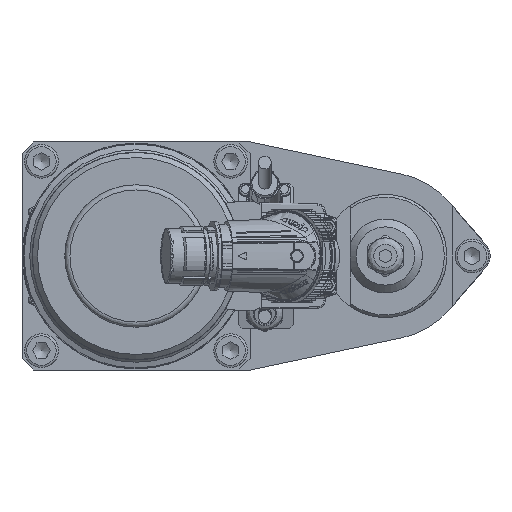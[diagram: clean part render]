
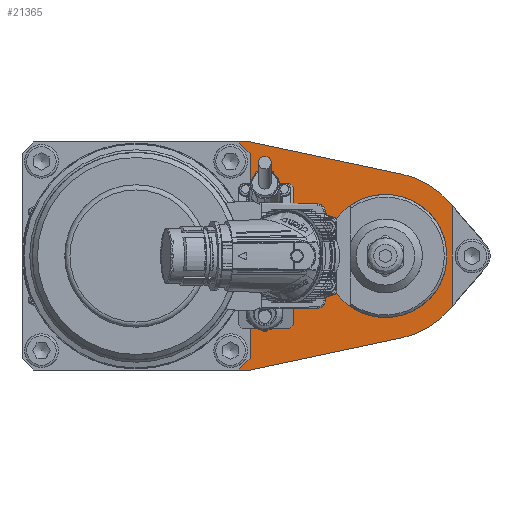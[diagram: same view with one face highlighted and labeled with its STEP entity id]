
A CAD part, left-side view. The second image highlights one B-rep face of the part: STEP entity #21365.
In plain terms, the highlighted planar face has unit normal (-1, 0, 0).
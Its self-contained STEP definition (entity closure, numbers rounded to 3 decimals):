
#387 = EDGE_CURVE ( 'NONE', #109382, #36661, #92093, .T. ) ;
#788 = LINE ( 'NONE', #8972, #1476 ) ;
#1031 = DIRECTION ( 'NONE',  ( 0., 0., 1. ) ) ;
#1476 = VECTOR ( 'NONE', #70362, 1000. ) ;
#2410 = FACE_BOUND ( 'NONE', #18944, .T. ) ;
#2539 = VERTEX_POINT ( 'NONE', #65524 ) ;
#3614 = FACE_OUTER_BOUND ( 'NONE', #56711, .T. ) ;
#3762 = VECTOR ( 'NONE', #28948, 1000. ) ;
#3872 = LINE ( 'NONE', #20195, #3762 ) ;
#6604 = EDGE_CURVE ( 'NONE', #48853, #90483, #105115, .T. ) ;
#6956 = CARTESIAN_POINT ( 'NONE',  ( -132., -24.302, 21.125 ) ) ;
#7243 = ORIENTED_EDGE ( 'NONE', *, *, #63338, .F. ) ;
#7562 = DIRECTION ( 'NONE',  ( 1., 0., 0. ) ) ;
#8972 = CARTESIAN_POINT ( 'NONE',  ( -132., -24.302, -21.125 ) ) ;
#9948 = VECTOR ( 'NONE', #86880, 1000. ) ;
#10277 = LINE ( 'NONE', #89573, #9948 ) ;
#10827 = ORIENTED_EDGE ( 'NONE', *, *, #91955, .F. ) ;
#10992 = CARTESIAN_POINT ( 'NONE',  ( -132., 19., 14.25 ) ) ;
#11321 = CARTESIAN_POINT ( 'NONE',  ( -132., 52.13, 44. ) ) ;
#12450 = EDGE_CURVE ( 'NONE', #90483, #109382, #14640, .T. ) ;
#12649 = ORIENTED_EDGE ( 'NONE', *, *, #36013, .F. ) ;
#14430 = VECTOR ( 'NONE', #44032, 1000. ) ;
#14640 = LINE ( 'NONE', #43282, #14430 ) ;
#14662 = CARTESIAN_POINT ( 'NONE',  ( -132., 56.713, 44. ) ) ;
#16172 = VECTOR ( 'NONE', #112332, 1000. ) ;
#16362 = DIRECTION ( 'NONE',  ( 0., 0., 1. ) ) ;
#17221 = DIRECTION ( 'NONE',  ( 0., 0., -1. ) ) ;
#18704 = CARTESIAN_POINT ( 'NONE',  ( -132., 56.713, -44. ) ) ;
#18944 = EDGE_LOOP ( 'NONE', ( #26297, #29300 ) ) ;
#19126 = VERTEX_POINT ( 'NONE', #66825 ) ;
#19936 = DIRECTION ( 'NONE',  ( 0., -0.707, -0.707 ) ) ;
#20195 = CARTESIAN_POINT ( 'NONE',  ( -132., 52.13, -44. ) ) ;
#20456 = AXIS2_PLACEMENT_3D ( 'NONE', #35530, #97473, #44284 ) ;
#21365 = ADVANCED_FACE ( 'NONE', ( #3614, #2410 ), #68570, .T. ) ;
#22307 = DIRECTION ( 'NONE',  ( -1., 0., 0. ) ) ;
#23043 = ORIENTED_EDGE ( 'NONE', *, *, #6604, .T. ) ;
#23073 = CARTESIAN_POINT ( 'NONE',  ( -132., 49.911, 0. ) ) ;
#24716 = VERTEX_POINT ( 'NONE', #90935 ) ;
#26297 = ORIENTED_EDGE ( 'NONE', *, *, #48983, .F. ) ;
#26474 = VERTEX_POINT ( 'NONE', #66926 ) ;
#28500 = CARTESIAN_POINT ( 'NONE',  ( -132., 140.213, -44. ) ) ;
#28948 = DIRECTION ( 'NONE',  ( 0., 0.978, -0.208 ) ) ;
#29300 = ORIENTED_EDGE ( 'NONE', *, *, #85053, .F. ) ;
#34404 = AXIS2_PLACEMENT_3D ( 'NONE', #23073, #22307, #1031 ) ;
#35530 = CARTESIAN_POINT ( 'NONE',  ( -132., 0., 0. ) ) ;
#35618 = ORIENTED_EDGE ( 'NONE', *, *, #93218, .F. ) ;
#35621 = AXIS2_PLACEMENT_3D ( 'NONE', #40984, #102933, #49912 ) ;
#36013 = EDGE_CURVE ( 'NONE', #45242, #82511, #85549, .T. ) ;
#36661 = VERTEX_POINT ( 'NONE', #18704 ) ;
#37012 = EDGE_CURVE ( 'NONE', #82511, #93504, #71786, .T. ) ;
#37183 = CIRCLE ( 'NONE', #35621, 23.75 ) ;
#37261 = CARTESIAN_POINT ( 'NONE',  ( -132., 52.213, -39.5 ) ) ;
#40984 = CARTESIAN_POINT ( 'NONE',  ( -132., 0., 0. ) ) ;
#41200 = EDGE_CURVE ( 'NONE', #48853, #45242, #10277, .T. ) ;
#43282 = CARTESIAN_POINT ( 'NONE',  ( -132., 52.213, 44. ) ) ;
#44032 = DIRECTION ( 'NONE',  ( 0., 0., -1. ) ) ;
#44284 = DIRECTION ( 'NONE',  ( 0., 0., 1. ) ) ;
#45242 = VERTEX_POINT ( 'NONE', #11321 ) ;
#45811 = VECTOR ( 'NONE', #111340, 1000. ) ;
#48853 = VERTEX_POINT ( 'NONE', #101265 ) ;
#48983 = EDGE_CURVE ( 'NONE', #110716, #24716, #82430, .T. ) ;
#49552 = CARTESIAN_POINT ( 'NONE',  ( -132., -25.89, -19.298 ) ) ;
#49912 = DIRECTION ( 'NONE',  ( 0., 0., 1. ) ) ;
#50645 = CARTESIAN_POINT ( 'NONE',  ( -132., 52.213, 39.5 ) ) ;
#54335 = EDGE_CURVE ( 'NONE', #55182, #103830, #788, .T. ) ;
#55182 = VERTEX_POINT ( 'NONE', #112532 ) ;
#55804 = LINE ( 'NONE', #6956, #16172 ) ;
#56178 = ORIENTED_EDGE ( 'NONE', *, *, #54335, .F. ) ;
#56711 = EDGE_LOOP ( 'NONE', ( #23043, #100931, #79490, #7243, #100821, #79301, #56178, #35618, #10827, #69974, #12649, #64653 ) ) ;
#63338 = EDGE_CURVE ( 'NONE', #26474, #36661, #79816, .T. ) ;
#64653 = ORIENTED_EDGE ( 'NONE', *, *, #41200, .F. ) ;
#65524 = CARTESIAN_POINT ( 'NONE',  ( -132., -6.695, -31.496 ) ) ;
#66825 = CARTESIAN_POINT ( 'NONE',  ( -132., -25.89, 19.298 ) ) ;
#66926 = CARTESIAN_POINT ( 'NONE',  ( -132., 52.13, -44. ) ) ;
#67751 = CARTESIAN_POINT ( 'NONE',  ( -132., 0., 0. ) ) ;
#68302 = DIRECTION ( 'NONE',  ( 0., 0.707, -0.707 ) ) ;
#68448 = CARTESIAN_POINT ( 'NONE',  ( -132., 52.213, -39.5 ) ) ;
#68570 = PLANE ( 'NONE',  #34404 ) ;
#68811 = EDGE_CURVE ( 'NONE', #103830, #2539, #106315, .T. ) ;
#69974 = ORIENTED_EDGE ( 'NONE', *, *, #37012, .F. ) ;
#70362 = DIRECTION ( 'NONE',  ( 0., 0.656, -0.755 ) ) ;
#71786 = CIRCLE ( 'NONE', #73952, 32.2 ) ;
#73812 = CARTESIAN_POINT ( 'NONE',  ( -132., -24.302, 21.125 ) ) ;
#73952 = AXIS2_PLACEMENT_3D ( 'NONE', #67751, #7562, #16362 ) ;
#79301 = ORIENTED_EDGE ( 'NONE', *, *, #68811, .F. ) ;
#79490 = ORIENTED_EDGE ( 'NONE', *, *, #387, .T. ) ;
#79816 = LINE ( 'NONE', #28500, #79840 ) ;
#79840 = VECTOR ( 'NONE', #81712, 1000. ) ;
#81712 = DIRECTION ( 'NONE',  ( 0., 1., 0. ) ) ;
#82430 = LINE ( 'NONE', #93189, #82696 ) ;
#82511 = VERTEX_POINT ( 'NONE', #82658 ) ;
#82658 = CARTESIAN_POINT ( 'NONE',  ( -132., -6.695, 31.496 ) ) ;
#82696 = VECTOR ( 'NONE', #17221, 1000. ) ;
#84900 = VECTOR ( 'NONE', #98885, 1000. ) ;
#85053 = EDGE_CURVE ( 'NONE', #24716, #110716, #37183, .T. ) ;
#85549 = LINE ( 'NONE', #101767, #84900 ) ;
#86880 = DIRECTION ( 'NONE',  ( 0., -1., 0. ) ) ;
#89573 = CARTESIAN_POINT ( 'NONE',  ( -132., 140.213, 44. ) ) ;
#90483 = VERTEX_POINT ( 'NONE', #50645 ) ;
#90935 = CARTESIAN_POINT ( 'NONE',  ( -132., 19., -14.25 ) ) ;
#91955 = EDGE_CURVE ( 'NONE', #93504, #19126, #55804, .T. ) ;
#92093 = LINE ( 'NONE', #68448, #93897 ) ;
#93189 = CARTESIAN_POINT ( 'NONE',  ( -132., 19., -14.25 ) ) ;
#93218 = EDGE_CURVE ( 'NONE', #19126, #55182, #95582, .T. ) ;
#93453 = CARTESIAN_POINT ( 'NONE',  ( -132., -24.302, -21.125 ) ) ;
#93504 = VERTEX_POINT ( 'NONE', #73812 ) ;
#93897 = VECTOR ( 'NONE', #68302, 1000. ) ;
#95582 = LINE ( 'NONE', #49552, #45811 ) ;
#96404 = EDGE_CURVE ( 'NONE', #2539, #26474, #3872, .T. ) ;
#97473 = DIRECTION ( 'NONE',  ( 1., 0., 0. ) ) ;
#98885 = DIRECTION ( 'NONE',  ( 0., -0.978, -0.208 ) ) ;
#100821 = ORIENTED_EDGE ( 'NONE', *, *, #96404, .F. ) ;
#100931 = ORIENTED_EDGE ( 'NONE', *, *, #12450, .T. ) ;
#101265 = CARTESIAN_POINT ( 'NONE',  ( -132., 56.713, 44. ) ) ;
#101767 = CARTESIAN_POINT ( 'NONE',  ( -132., 52.13, 44. ) ) ;
#102933 = DIRECTION ( 'NONE',  ( -1., 0., 0. ) ) ;
#103830 = VERTEX_POINT ( 'NONE', #93453 ) ;
#104789 = VECTOR ( 'NONE', #19936, 1000. ) ;
#105115 = LINE ( 'NONE', #14662, #104789 ) ;
#106315 = CIRCLE ( 'NONE', #20456, 32.2 ) ;
#109382 = VERTEX_POINT ( 'NONE', #37261 ) ;
#110716 = VERTEX_POINT ( 'NONE', #10992 ) ;
#111340 = DIRECTION ( 'NONE',  ( 0., 0., -1. ) ) ;
#112332 = DIRECTION ( 'NONE',  ( 0., -0.656, -0.755 ) ) ;
#112532 = CARTESIAN_POINT ( 'NONE',  ( -132., -25.89, -19.298 ) ) ;
